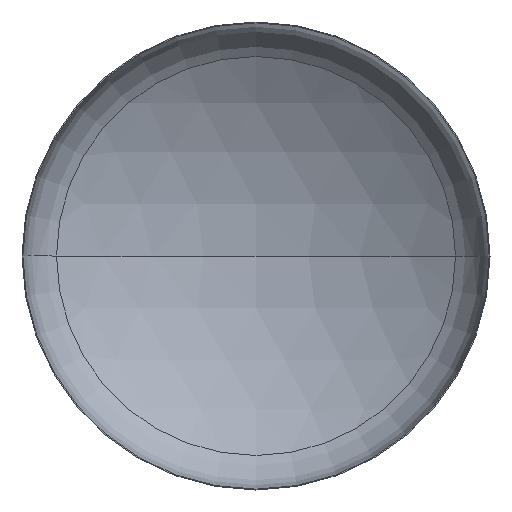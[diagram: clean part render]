
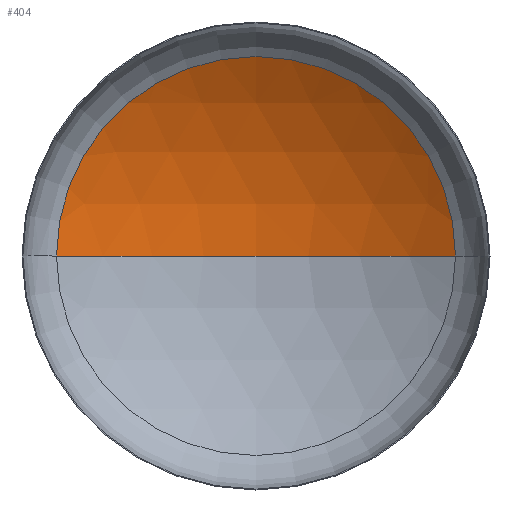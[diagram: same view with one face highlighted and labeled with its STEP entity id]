
A CAD part, front view. The second image highlights one B-rep face of the part: STEP entity #404.
In plain terms, the highlighted spherical face has radius 6000 mm.
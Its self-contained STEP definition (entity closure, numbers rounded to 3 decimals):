
#2 = VERTEX_POINT ( 'NONE', #268 ) ;
#12 = CARTESIAN_POINT ( 'NONE',  ( 0., 1022.471, 0. ) ) ;
#33 = AXIS2_PLACEMENT_3D ( 'NONE', #12, #59, #49 ) ;
#39 = VERTEX_POINT ( 'NONE', #262 ) ;
#49 = DIRECTION ( 'NONE',  ( 1., 0., 0. ) ) ;
#59 = DIRECTION ( 'NONE',  ( 0., -1., 0. ) ) ;
#68 = ORIENTED_EDGE ( 'NONE', *, *, #255, .T. ) ;
#73 = ORIENTED_EDGE ( 'NONE', *, *, #295, .T. ) ;
#75 = VERTEX_POINT ( 'NONE', #209 ) ;
#78 = EDGE_LOOP ( 'NONE', ( #290, #73, #68 ) ) ;
#119 = AXIS2_PLACEMENT_3D ( 'NONE', #129, #134, #131 ) ;
#129 = CARTESIAN_POINT ( 'NONE',  ( 0., -4055.3, 0. ) ) ;
#131 = DIRECTION ( 'NONE',  ( -1., 0., 0. ) ) ;
#134 = DIRECTION ( 'NONE',  ( 0., 0., -1. ) ) ;
#162 = DIRECTION ( 'NONE',  ( 0., 0., 1. ) ) ;
#170 = CIRCLE ( 'NONE', #119, 6000. ) ;
#196 = AXIS2_PLACEMENT_3D ( 'NONE', #328, #162, #296 ) ;
#209 = CARTESIAN_POINT ( 'NONE',  ( -3196.285, 1022.471, 0. ) ) ;
#227 = DIRECTION ( 'NONE',  ( -1., 0., 0. ) ) ;
#231 = CIRCLE ( 'NONE', #196, 6000. ) ;
#240 = CIRCLE ( 'NONE', #33, 3196.285 ) ;
#255 = EDGE_CURVE ( 'NONE', #39, #75, #240, .T. ) ;
#262 = CARTESIAN_POINT ( 'NONE',  ( 3196.285, 1022.471, 0. ) ) ;
#264 = SPHERICAL_SURFACE ( 'NONE', #376, 6000. ) ;
#268 = CARTESIAN_POINT ( 'NONE',  ( 0., 1944.7, 0. ) ) ;
#276 = CARTESIAN_POINT ( 'NONE',  ( 0., -4055.3, 0. ) ) ;
#290 = ORIENTED_EDGE ( 'NONE', *, *, #319, .F. ) ;
#295 = EDGE_CURVE ( 'NONE', #2, #39, #170, .T. ) ;
#296 = DIRECTION ( 'NONE',  ( 1., 0., 0. ) ) ;
#319 = EDGE_CURVE ( 'NONE', #2, #75, #231, .T. ) ;
#328 = CARTESIAN_POINT ( 'NONE',  ( 0., -4055.3, 0. ) ) ;
#376 = AXIS2_PLACEMENT_3D ( 'NONE', #276, #380, #227 ) ;
#380 = DIRECTION ( 'NONE',  ( 0., 0., -1. ) ) ;
#395 = FACE_OUTER_BOUND ( 'NONE', #78, .T. ) ;
#404 = ADVANCED_FACE ( 'NONE', ( #395 ), #264, .F. ) ;
